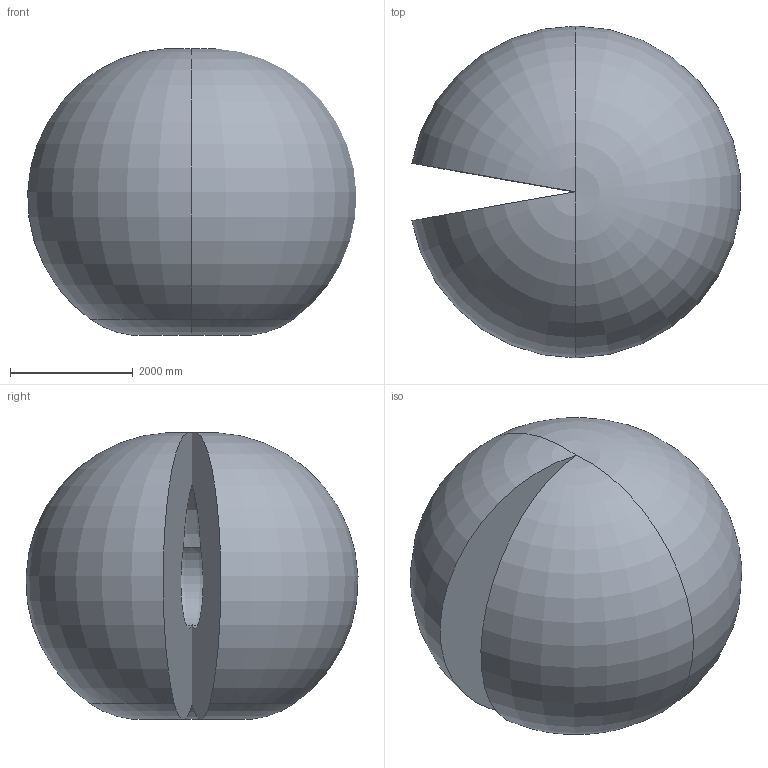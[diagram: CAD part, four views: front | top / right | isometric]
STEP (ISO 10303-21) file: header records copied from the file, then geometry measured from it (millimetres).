
FILE_DESCRIPTION (( 'STEP AP214' ), '1' );
FILE_NAME ('IRB5710-MH3_90kg-270_OC_01_Working-space.step', '2025-07-08T11:34:31', ( '' ), ( '' ), 'SwSTEP 2.0', 'SolidWorks 2024', '' );
FILE_SCHEMA (( 'AUTOMOTIVE_DESIGN' ));
Length unit declared in the file: millimetre
Products named in the file (1): IRB5710-MH3_90kg-270_OC_01_Working-space
Bounding box: 5343.74 x 5399.54 x 4662.82 mm (x, y, z)
Volume: 67649212745 mm3; surface area: 112655447.5 mm2
Topology: 1 solids, 1 shells, 14 faces, 36 edges, 12 vertices
Faces by surface type: torus 12, plane 2
Entity records: 357 total; most frequent: DIRECTION 76, CARTESIAN_POINT 51, ORIENTED_EDGE 48, AXIS2_PLACEMENT_3D 37, EDGE_CURVE 24, CIRCLE 22, EDGE_LOOP 14, ADVANCED_FACE 14
